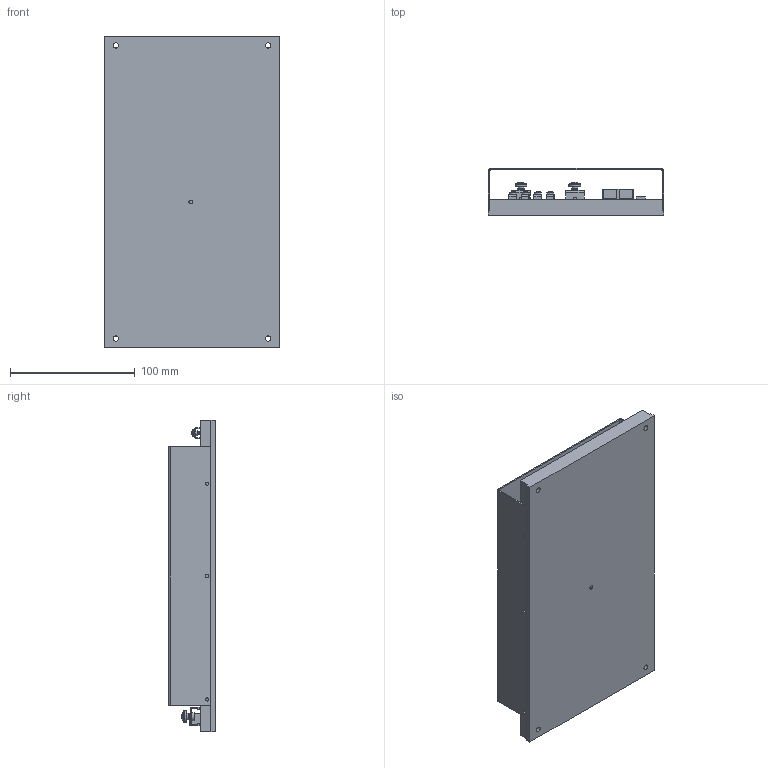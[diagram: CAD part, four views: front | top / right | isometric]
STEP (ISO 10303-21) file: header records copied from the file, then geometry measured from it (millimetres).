
FILE_DESCRIPTION(/* description */ (''),/* implementation_level */ '2;1');
FILE_NAME(/* name */ '',/* time_stamp */ '',/* author */ (''),/* organization */ (''),/* preprocessor_version */ '',/* originating_system */ '',/* authorisation */ '');
FILE_SCHEMA (('AUTOMOTIVE_DESIGN { 1 0 10303 214 3 1 1 }'));
Length unit declared in the file: inch
Products named in the file (1): JETNA3000-LP_full
Bounding box: 141 x 38 x 250 mm (x, y, z)
Volume: 444104.2 mm3; surface area: 166511.5 mm2
Topology: 10 solids, 10 shells, 1022 faces, 2403 edges, 1450 vertices
Faces by surface type: plane 599, cylinder 263, cone 106, torus 48, sphere 6
Full cylindrical faces by diameter (mm): 2.5 x10, 3 x33, 3.8 x1, 4 x5, 4.2 x2, 4.3 x4, 5 x6, 5.6 x4, 6.3 x2, 9.5 x2
Entity records: 28822 total; most frequent: CARTESIAN_POINT 5141, DIRECTION 4916, ORIENTED_EDGE 4344, EDGE_CURVE 2172, AXIS2_PLACEMENT_3D 1769, LINE 1378, VECTOR 1378, VERTEX_POINT 1370
